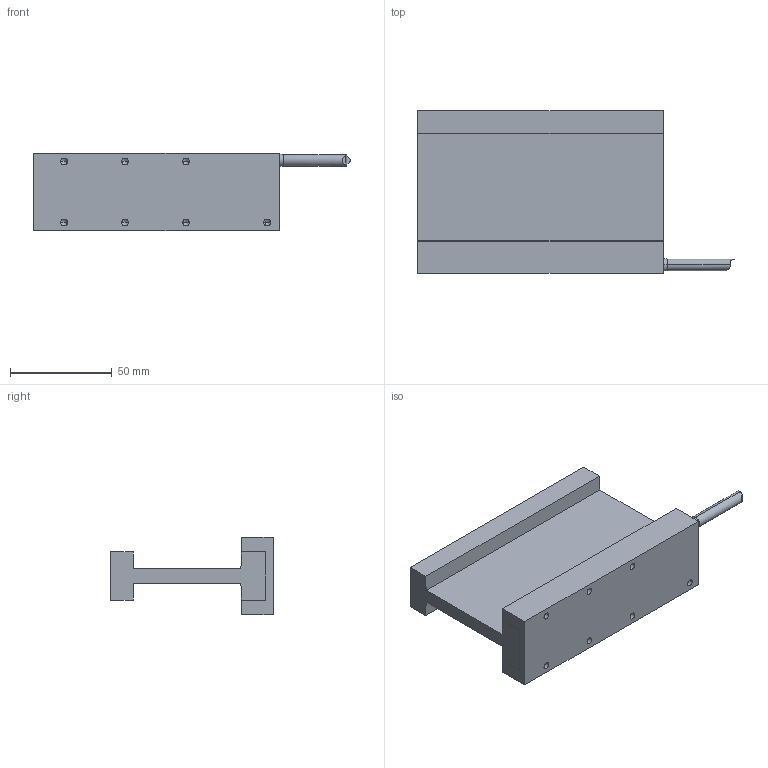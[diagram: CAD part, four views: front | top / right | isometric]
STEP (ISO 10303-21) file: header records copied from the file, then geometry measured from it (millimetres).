
FILE_DESCRIPTION (( 'STEP AP214' ), '1' );
FILE_NAME ('DX50F-C2-NH -REV00.step', '2022-05-06T02:57:05', ( '' ), ( '' ), 'SwSTEP 2.0', 'SolidWorks 2020', '' );
FILE_SCHEMA (( 'AUTOMOTIVE_DESIGN' ));
Length unit declared in the file: millimetre
Products named in the file (1): DX50F-C2-NH -REV00
Bounding box: 156 x 80 x 38.2 mm (x, y, z)
Volume: 148952.7 mm3; surface area: 48333.8 mm2
Topology: 3 solids, 3 shells, 85 faces, 208 edges, 124 vertices
Faces by surface type: plane 37, cylinder 30, cone 16, torus 2
Entity records: 3362 total; most frequent: CARTESIAN_POINT 429, DIRECTION 416, ORIENTED_EDGE 384, EDGE_CURVE 192, AXIS2_PLACEMENT_3D 147, VERTEX_POINT 124, VECTOR 122, LINE 122
